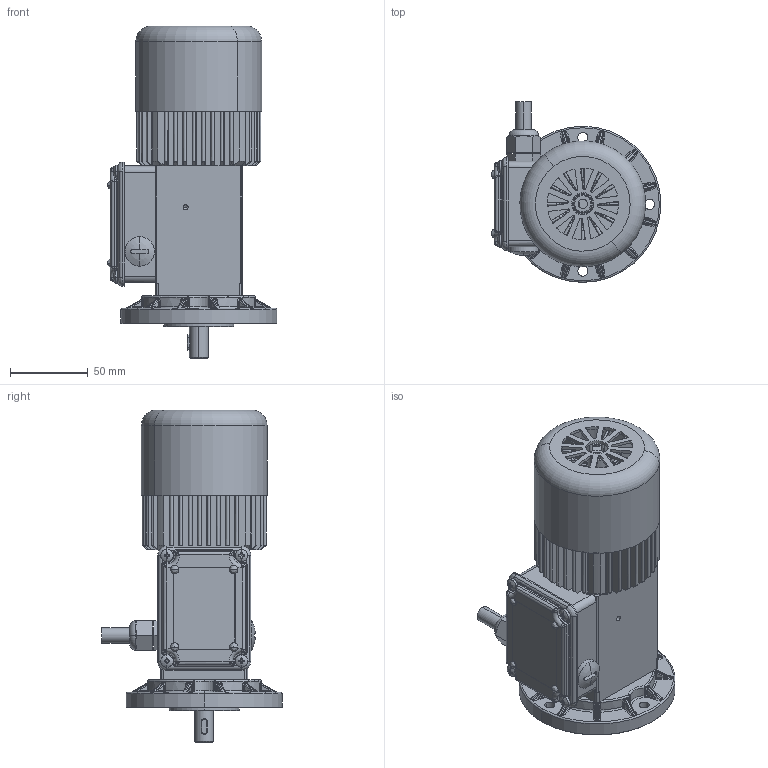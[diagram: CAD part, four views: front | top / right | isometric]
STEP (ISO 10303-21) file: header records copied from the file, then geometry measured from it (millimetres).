
FILE_DESCRIPTION((''),'2;1');
FILE_NAME('C:\Documents and Settings\marco\Desktop\DATI\DATI MARCO\Disegni inventor\STEP\AC\AC_B5.stp','2003-08-26T15:12:14',('Administrator'),(''),'Autodesk Inventor 7','Autodesk Inventor 7','');
FILE_SCHEMA(('AUTOMOTIVE_DESIGN { 1 0 10303 214 1 1 1 1 }'));
Length unit declared in the file: millimetre
Products named in the file (1): AC_B5
Bounding box: 109.2 x 116.25 x 213.68 mm (x, y, z)
Volume: 377590.5 mm3; surface area: 208531.1 mm2
Topology: 20 solids, 20 shells, 3271 faces, 9073 edges, 5544 vertices
Faces by surface type: cylinder 1235, plane 939, bspline 648, torus 231, cone 194, sphere 24
Entity records: 122559 total; most frequent: CARTESIAN_POINT 40354, DIRECTION 17775, ORIENTED_EDGE 17710, EDGE_CURVE 8855, AXIS2_PLACEMENT_3D 7041, VERTEX_POINT 5544, CIRCLE 4247, VECTOR 3693
